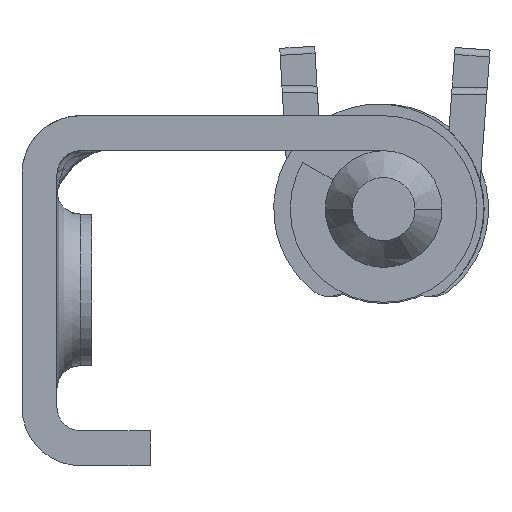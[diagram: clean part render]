
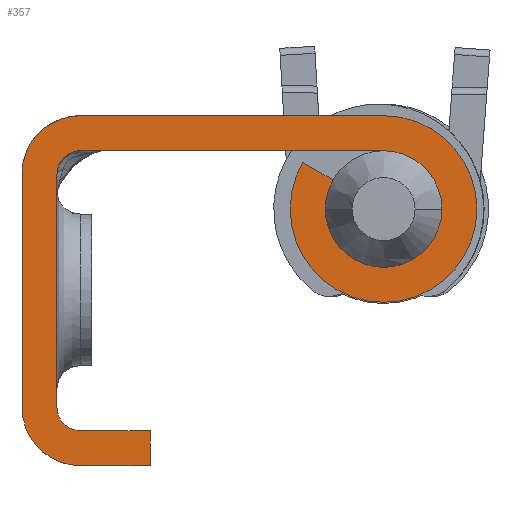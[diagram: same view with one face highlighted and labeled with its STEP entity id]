
A CAD part, front view. The second image highlights one B-rep face of the part: STEP entity #357.
In plain terms, the highlighted planar face has unit normal (0, -1, 0).
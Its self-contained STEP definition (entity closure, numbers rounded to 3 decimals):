
#168=B_SPLINE_CURVE_WITH_KNOTS('',1,(#6956,#6957),.UNSPECIFIED.,.F.,.F.,
(2,2),(-236.445,-233.445),.UNSPECIFIED.);
#172=B_SPLINE_CURVE_WITH_KNOTS('',1,(#6964,#6965),.UNSPECIFIED.,.F.,.F.,
(2,2),(-233.445,-231.945),.UNSPECIFIED.);
#175=B_SPLINE_CURVE_WITH_KNOTS('',1,(#6970,#6971),.UNSPECIFIED.,.F.,.F.,
(2,2),(-231.945,-228.945),.UNSPECIFIED.);
#178=B_SPLINE_CURVE_WITH_KNOTS('',1,(#6984,#6985),.UNSPECIFIED.,.F.,.F.,
(2,2),(-227.375,-217.375),.UNSPECIFIED.);
#181=B_SPLINE_CURVE_WITH_KNOTS('',1,(#6998,#6999),.UNSPECIFIED.,.F.,.F.,
(2,2),(-215.804,-202.804),.UNSPECIFIED.);
#184=B_SPLINE_CURVE_WITH_KNOTS('',1,(#7012,#7013),.UNSPECIFIED.,.F.,.F.,
(2,2),(-189.714,-188.214),.UNSPECIFIED.);
#187=B_SPLINE_CURVE_WITH_KNOTS('',1,(#7026,#7027),.UNSPECIFIED.,.F.,.F.,
(2,2),(-175.124,-162.124),.UNSPECIFIED.);
#190=B_SPLINE_CURVE_WITH_KNOTS('',1,(#7040,#7041),.UNSPECIFIED.,.F.,.F.,
(2,2),(-158.197,-148.197),.UNSPECIFIED.);
#357=ADVANCED_FACE('',(#541),#2913,.T.);
#541=FACE_OUTER_BOUND('',#728,.T.);
#728=EDGE_LOOP('',(#1347,#1348,#1349,#1350,#1351,#1352,#1353,#1354,#1355,
#1356,#1357,#1358,#1359,#1360));
#1347=ORIENTED_EDGE('',*,*,#1984,.T.);
#1348=ORIENTED_EDGE('',*,*,#1988,.T.);
#1349=ORIENTED_EDGE('',*,*,#1991,.T.);
#1350=ORIENTED_EDGE('',*,*,#1994,.T.);
#1351=ORIENTED_EDGE('',*,*,#1997,.T.);
#1352=ORIENTED_EDGE('',*,*,#2000,.T.);
#1353=ORIENTED_EDGE('',*,*,#2003,.T.);
#1354=ORIENTED_EDGE('',*,*,#2006,.T.);
#1355=ORIENTED_EDGE('',*,*,#2009,.T.);
#1356=ORIENTED_EDGE('',*,*,#2012,.T.);
#1357=ORIENTED_EDGE('',*,*,#2015,.T.);
#1358=ORIENTED_EDGE('',*,*,#2018,.T.);
#1359=ORIENTED_EDGE('',*,*,#2021,.T.);
#1360=ORIENTED_EDGE('',*,*,#2023,.T.);
#1984=EDGE_CURVE('',#2722,#2721,#168,.T.);
#1988=EDGE_CURVE('',#2721,#2724,#172,.T.);
#1991=EDGE_CURVE('',#2724,#2726,#175,.T.);
#1994=EDGE_CURVE('',#2726,#2728,#2250,.T.);
#1997=EDGE_CURVE('',#2728,#2730,#178,.T.);
#2000=EDGE_CURVE('',#2730,#2732,#2252,.T.);
#2003=EDGE_CURVE('',#2732,#2734,#181,.T.);
#2006=EDGE_CURVE('',#2734,#2736,#2254,.T.);
#2009=EDGE_CURVE('',#2736,#2738,#184,.T.);
#2012=EDGE_CURVE('',#2738,#2740,#2256,.T.);
#2015=EDGE_CURVE('',#2740,#2742,#187,.T.);
#2018=EDGE_CURVE('',#2742,#2744,#2258,.T.);
#2021=EDGE_CURVE('',#2744,#2746,#190,.T.);
#2023=EDGE_CURVE('',#2746,#2722,#2260,.T.);
#2250=TRIMMED_CURVE($,#2368,(#6978),(#6979),.T.,.CARTESIAN.);
#2252=TRIMMED_CURVE($,#2370,(#6992),(#6993),.T.,.CARTESIAN.);
#2254=TRIMMED_CURVE($,#2372,(#7006),(#7007),.T.,.CARTESIAN.);
#2256=TRIMMED_CURVE($,#2374,(#7020),(#7021),.T.,.CARTESIAN.);
#2258=TRIMMED_CURVE($,#2376,(#7034),(#7035),.T.,.CARTESIAN.);
#2260=TRIMMED_CURVE($,#2378,(#7046),(#7047),.T.,.CARTESIAN.);
#2368=CIRCLE('',#3313,1.);
#2370=CIRCLE('',#3315,1.);
#2372=CIRCLE('',#3317,2.5);
#2374=CIRCLE('',#3319,4.);
#2376=CIRCLE('',#3321,2.5);
#2378=CIRCLE('',#3323,2.5);
#2721=VERTEX_POINT('',#6811);
#2722=VERTEX_POINT('',#6812);
#2724=VERTEX_POINT('',#6814);
#2726=VERTEX_POINT('',#6816);
#2728=VERTEX_POINT('',#6818);
#2730=VERTEX_POINT('',#6820);
#2732=VERTEX_POINT('',#6822);
#2734=VERTEX_POINT('',#6824);
#2736=VERTEX_POINT('',#6826);
#2738=VERTEX_POINT('',#6828);
#2740=VERTEX_POINT('',#6830);
#2742=VERTEX_POINT('',#6832);
#2744=VERTEX_POINT('',#6834);
#2746=VERTEX_POINT('',#6836);
#2913=PLANE('',#3308);
#3308=AXIS2_PLACEMENT_3D('',#6614,#3616,$);
#3313=AXIS2_PLACEMENT_3D($,#6977,#3624,#3625);
#3315=AXIS2_PLACEMENT_3D($,#6991,#3628,#3629);
#3317=AXIS2_PLACEMENT_3D($,#7005,#3632,#3633);
#3319=AXIS2_PLACEMENT_3D($,#7019,#3636,#3637);
#3321=AXIS2_PLACEMENT_3D($,#7033,#3640,#3641);
#3323=AXIS2_PLACEMENT_3D($,#7045,#3644,#3645);
#3616=DIRECTION('',(0.,-1.,0.));
#3624=DIRECTION('',(0.,1.,0.));
#3625=DIRECTION('',(0.,0.,-1.));
#3628=DIRECTION('',(0.,1.,0.));
#3629=DIRECTION('',(-1.,0.,0.));
#3632=DIRECTION('',(0.,1.,0.));
#3633=DIRECTION('',(0.,0.,1.));
#3636=DIRECTION('',(0.,-1.,0.));
#3637=DIRECTION('',(-0.866,0.,0.5));
#3640=DIRECTION('',(0.,-1.,0.));
#3641=DIRECTION('',(0.,0.,1.));
#3644=DIRECTION('',(0.,-1.,0.));
#3645=DIRECTION('',(-1.,0.,0.));
#6614=CARTESIAN_POINT('',(136.211,-41.161,20.086));
#6811=CARTESIAN_POINT('',(119.774,-41.161,21.961));
#6812=CARTESIAN_POINT('',(116.774,-41.161,21.961));
#6814=CARTESIAN_POINT('',(119.774,-41.161,23.461));
#6816=CARTESIAN_POINT('',(116.774,-41.161,23.461));
#6818=CARTESIAN_POINT('',(115.774,-41.161,24.461));
#6820=CARTESIAN_POINT('',(115.774,-41.161,34.461));
#6822=CARTESIAN_POINT('',(116.774,-41.161,35.461));
#6824=CARTESIAN_POINT('',(129.774,-41.161,35.461));
#6826=CARTESIAN_POINT('',(127.609,-41.161,34.211));
#6828=CARTESIAN_POINT('',(126.31,-41.161,34.961));
#6830=CARTESIAN_POINT('',(129.774,-41.161,36.961));
#6832=CARTESIAN_POINT('',(116.774,-41.161,36.961));
#6834=CARTESIAN_POINT('',(114.274,-41.161,34.461));
#6836=CARTESIAN_POINT('',(114.274,-41.161,24.461));
#6956=CARTESIAN_POINT('',(116.774,-41.161,21.961));
#6957=CARTESIAN_POINT('',(119.774,-41.161,21.961));
#6964=CARTESIAN_POINT('',(119.774,-41.161,21.961));
#6965=CARTESIAN_POINT('',(119.774,-41.161,23.461));
#6970=CARTESIAN_POINT('',(119.774,-41.161,23.461));
#6971=CARTESIAN_POINT('',(116.774,-41.161,23.461));
#6977=CARTESIAN_POINT('',(116.774,-41.161,24.461));
#6978=CARTESIAN_POINT('',(116.774,-41.161,23.461));
#6979=CARTESIAN_POINT('',(115.774,-41.161,24.461));
#6984=CARTESIAN_POINT('',(115.774,-41.161,24.461));
#6985=CARTESIAN_POINT('',(115.774,-41.161,34.461));
#6991=CARTESIAN_POINT('',(116.774,-41.161,34.461));
#6992=CARTESIAN_POINT('',(115.774,-41.161,34.461));
#6993=CARTESIAN_POINT('',(116.774,-41.161,35.461));
#6998=CARTESIAN_POINT('',(116.774,-41.161,35.461));
#6999=CARTESIAN_POINT('',(129.774,-41.161,35.461));
#7005=CARTESIAN_POINT('',(129.774,-41.161,32.961));
#7006=CARTESIAN_POINT('',(129.774,-41.161,35.461));
#7007=CARTESIAN_POINT('',(127.609,-41.161,34.211));
#7012=CARTESIAN_POINT('',(127.609,-41.161,34.211));
#7013=CARTESIAN_POINT('',(126.31,-41.161,34.961));
#7019=CARTESIAN_POINT('',(129.774,-41.161,32.961));
#7020=CARTESIAN_POINT('',(126.31,-41.161,34.961));
#7021=CARTESIAN_POINT('',(129.774,-41.161,36.961));
#7026=CARTESIAN_POINT('',(129.774,-41.161,36.961));
#7027=CARTESIAN_POINT('',(116.774,-41.161,36.961));
#7033=CARTESIAN_POINT('',(116.774,-41.161,34.461));
#7034=CARTESIAN_POINT('',(116.774,-41.161,36.961));
#7035=CARTESIAN_POINT('',(114.274,-41.161,34.461));
#7040=CARTESIAN_POINT('',(114.274,-41.161,34.461));
#7041=CARTESIAN_POINT('',(114.274,-41.161,24.461));
#7045=CARTESIAN_POINT('',(116.774,-41.161,24.461));
#7046=CARTESIAN_POINT('',(114.274,-41.161,24.461));
#7047=CARTESIAN_POINT('',(116.774,-41.161,21.961));
